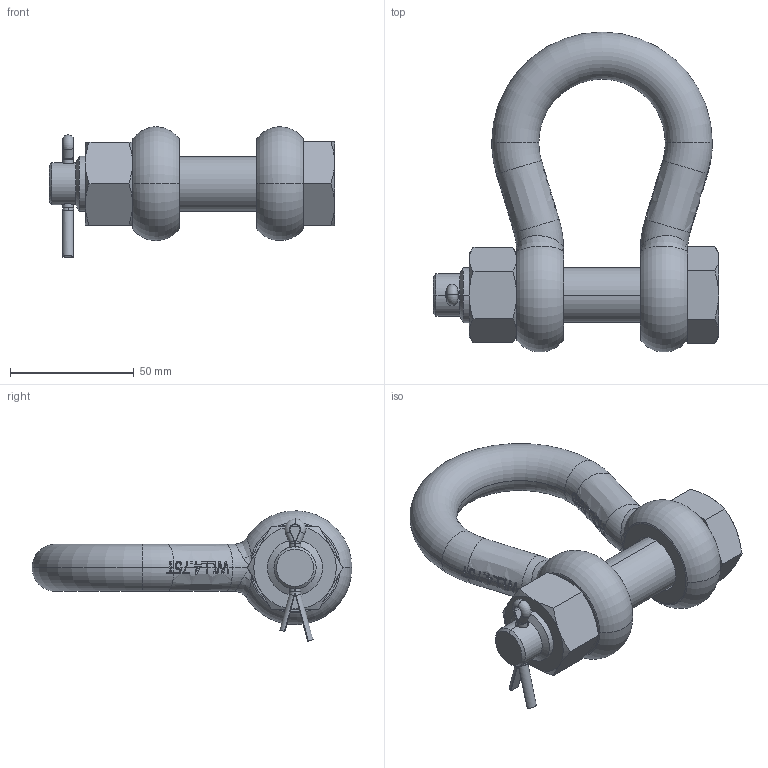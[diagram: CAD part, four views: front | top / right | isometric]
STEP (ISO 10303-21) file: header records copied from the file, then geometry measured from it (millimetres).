
FILE_DESCRIPTION (( 'STEP AP214' ), '1' );
FILE_NAME ('GPGHMB19.STEP', '2024-02-12T19:26:36', ( '' ), ( '' ), 'SwSTEP 2.0', 'SolidWorks 2018', '' );
FILE_SCHEMA (( 'AUTOMOTIVE_DESIGN' ));
Length unit declared in the file: millimetre
Products named in the file (5): gpghmb19_03; gpghmb19_01; GPGHMB19; gpghmb19_02; gpghmb19_04
Assembly tree (4 placements, depth 2):
  GPGHMB19
    gpghmb19_01
    gpghmb19_02
    gpghmb19_03
    gpghmb19_04
Bounding box: 115 x 129.06 x 52.54 mm (x, y, z)
Volume: 156463.5 mm3; surface area: 38453.5 mm2
Topology: 4 solids, 4 shells, 562 faces, 1516 edges, 958 vertices
Faces by surface type: plane 269, bspline 136, cylinder 81, torus 46, cone 30
Entity records: 27483 total; most frequent: CARTESIAN_POINT 14533, ORIENTED_EDGE 3000, DIRECTION 2116, EDGE_CURVE 1500, VERTEX_POINT 958, VECTOR 736, LINE 736, AXIS2_PLACEMENT_3D 690
